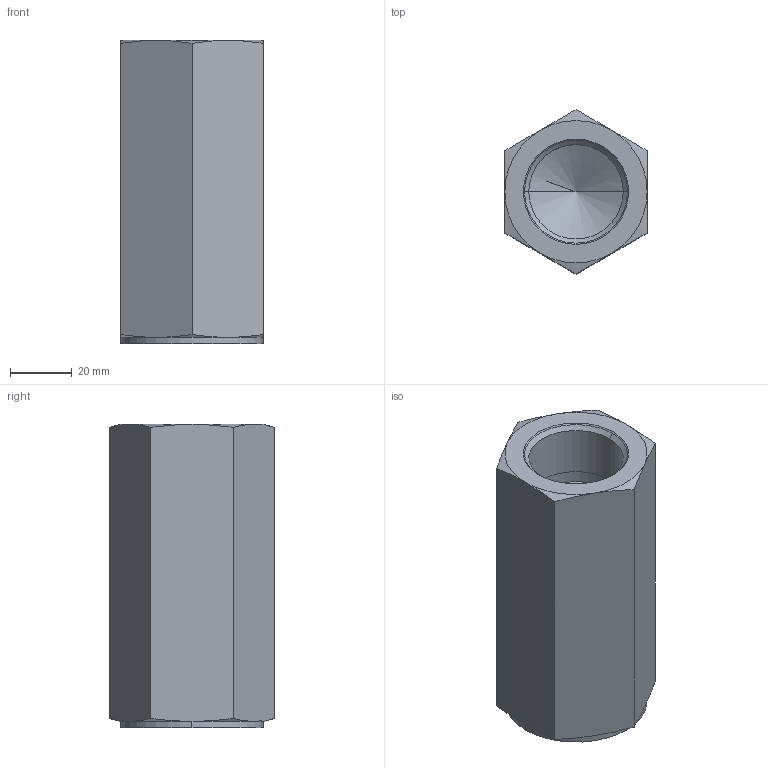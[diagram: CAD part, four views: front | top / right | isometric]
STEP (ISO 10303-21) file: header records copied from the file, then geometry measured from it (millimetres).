
FILE_DESCRIPTION((''),'2;1');
FILE_NAME('VJ3_20_G1','2021-06-02T',('l.soukupova'),(''),'PRO/ENGINEER BY PARAMETRIC TECHNOLOGY CORPORATION, 2015440','PRO/ENGINEER BY PARAMETRIC TECHNOLOGY CORPORATION, 2015440','');
FILE_SCHEMA(('AUTOMOTIVE_DESIGN { 1 0 10303 214 1 1 1 1 }'));
Length unit declared in the file: millimetre
Products named in the file (1): VJ3_20_G1
Bounding box: 46 x 53.12 x 98 mm (x, y, z)
Volume: 142406.3 mm3; surface area: 27370.1 mm2
Topology: 1 solids, 3 shells, 40 faces, 114 edges, 87 vertices
Faces by surface type: cone 20, plane 10, cylinder 10
Entity records: 1994 total; most frequent: CARTESIAN_POINT 549, DIRECTION 212, ORIENTED_EDGE 164, PRESENTATION_STYLE_ASSIGNMENT 122, STYLED_ITEM 122, CURVE_STYLE 119, EDGE_CURVE 86, AXIS2_PLACEMENT_3D 83
